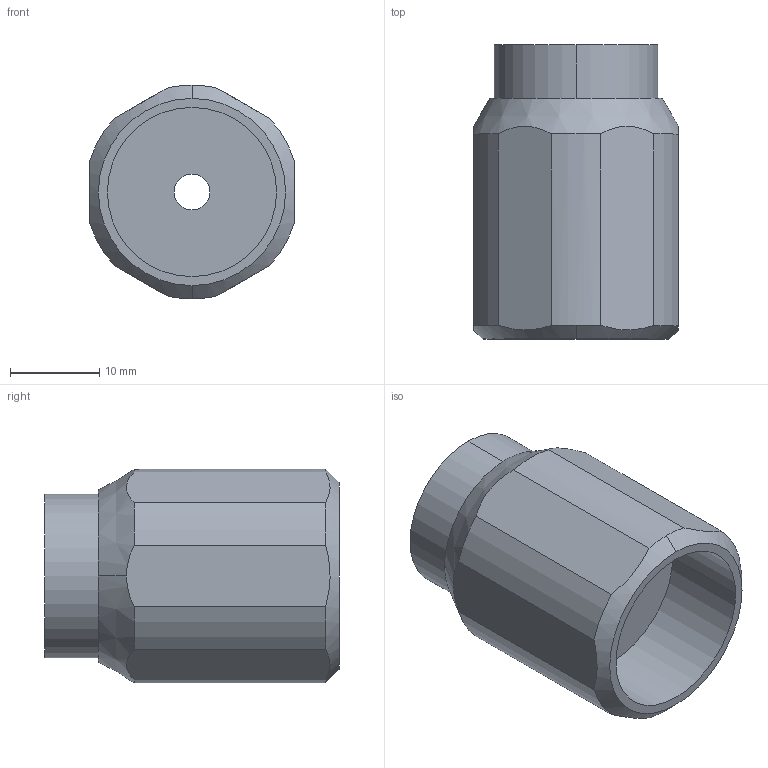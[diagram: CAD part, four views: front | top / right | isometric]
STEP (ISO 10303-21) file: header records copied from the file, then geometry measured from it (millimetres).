
FILE_DESCRIPTION (( 'STEP AP214' ), '1' );
FILE_NAME ('SILVENT 703 L.STEP', '2013-12-03T10:45:01', ( '' ), ( '' ), 'SwSTEP 2.0', 'SolidWorks 2013', '' );
FILE_SCHEMA (( 'AUTOMOTIVE_DESIGN' ));
Length unit declared in the file: millimetre
Products named in the file (1): SILVENT 703 L
Bounding box: 23 x 33 x 24 mm (x, y, z)
Volume: 9974.9 mm3; surface area: 3912.6 mm2
Topology: 1 solids, 1 shells, 27 faces, 68 edges, 45 vertices
Faces by surface type: cylinder 13, plane 10, cone 4
Entity records: 957 total; most frequent: CARTESIAN_POINT 263, DIRECTION 141, ORIENTED_EDGE 136, EDGE_CURVE 68, AXIS2_PLACEMENT_3D 59, VERTEX_POINT 45, CIRCLE 31, EDGE_LOOP 31
